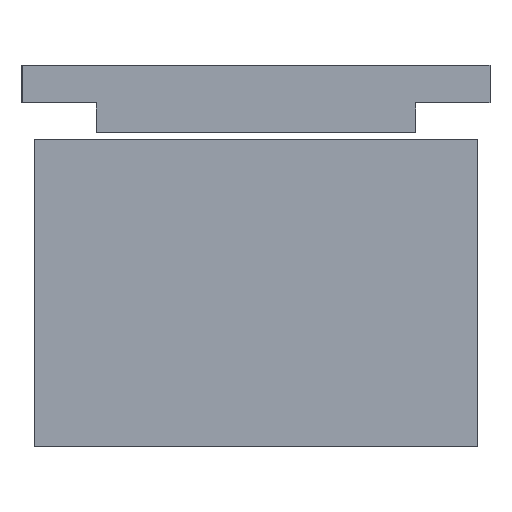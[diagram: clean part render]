
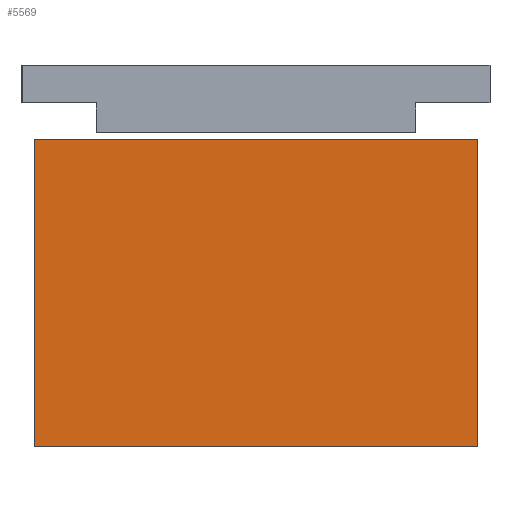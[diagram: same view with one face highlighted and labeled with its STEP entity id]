
A CAD part, left-side view. The second image highlights one B-rep face of the part: STEP entity #5569.
In plain terms, the highlighted planar face has unit normal (-1, 0, 0).
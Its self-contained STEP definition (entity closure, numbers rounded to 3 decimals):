
#202 = EDGE_CURVE ( 'NONE', #4719, #2775, #5398, .T. ) ;
#438 = VECTOR ( 'NONE', #5515, 1000. ) ;
#596 = LINE ( 'NONE', #1290, #3155 ) ;
#1290 = CARTESIAN_POINT ( 'NONE',  ( -182., -35.5, 49.3 ) ) ;
#1592 = DIRECTION ( 'NONE',  ( 0., 0., -1. ) ) ;
#1687 = LINE ( 'NONE', #2746, #4923 ) ;
#1929 = CARTESIAN_POINT ( 'NONE',  ( -182., -35.5, 0. ) ) ;
#2072 = CARTESIAN_POINT ( 'NONE',  ( -182., -35.5, 0. ) ) ;
#2194 = ORIENTED_EDGE ( 'NONE', *, *, #202, .T. ) ;
#2257 = ORIENTED_EDGE ( 'NONE', *, *, #7600, .F. ) ;
#2273 = PLANE ( 'NONE',  #3013 ) ;
#2590 = CARTESIAN_POINT ( 'NONE',  ( -182., -35.5, 49.3 ) ) ;
#2746 = CARTESIAN_POINT ( 'NONE',  ( -182., -35.5, 49.3 ) ) ;
#2775 = VERTEX_POINT ( 'NONE', #3721 ) ;
#2860 = DIRECTION ( 'NONE',  ( 0., 0., -1. ) ) ;
#2912 = LINE ( 'NONE', #1929, #438 ) ;
#3013 = AXIS2_PLACEMENT_3D ( 'NONE', #5981, #3426, #2860 ) ;
#3155 = VECTOR ( 'NONE', #7451, 1000. ) ;
#3426 = DIRECTION ( 'NONE',  ( 1., 0., 0. ) ) ;
#3721 = CARTESIAN_POINT ( 'NONE',  ( -182., 35.5, 0. ) ) ;
#4099 = FACE_OUTER_BOUND ( 'NONE', #7044, .T. ) ;
#4719 = VERTEX_POINT ( 'NONE', #7041 ) ;
#4740 = ORIENTED_EDGE ( 'NONE', *, *, #6092, .F. ) ;
#4923 = VECTOR ( 'NONE', #5783, 1000. ) ;
#5398 = LINE ( 'NONE', #6396, #7655 ) ;
#5515 = DIRECTION ( 'NONE',  ( 0., -1., 0. ) ) ;
#5569 = ADVANCED_FACE ( 'NONE', ( #4099 ), #2273, .F. ) ;
#5783 = DIRECTION ( 'NONE',  ( 0., 0., -1. ) ) ;
#5981 = CARTESIAN_POINT ( 'NONE',  ( -182., -35.5, 49.3 ) ) ;
#6030 = VERTEX_POINT ( 'NONE', #2072 ) ;
#6092 = EDGE_CURVE ( 'NONE', #6975, #6030, #1687, .T. ) ;
#6396 = CARTESIAN_POINT ( 'NONE',  ( -182., 35.5, 49.3 ) ) ;
#6476 = EDGE_CURVE ( 'NONE', #2775, #6030, #2912, .T. ) ;
#6975 = VERTEX_POINT ( 'NONE', #2590 ) ;
#7041 = CARTESIAN_POINT ( 'NONE',  ( -182., 35.5, 49.3 ) ) ;
#7044 = EDGE_LOOP ( 'NONE', ( #7871, #4740, #2257, #2194 ) ) ;
#7451 = DIRECTION ( 'NONE',  ( 0., -1., 0. ) ) ;
#7600 = EDGE_CURVE ( 'NONE', #4719, #6975, #596, .T. ) ;
#7655 = VECTOR ( 'NONE', #1592, 1000. ) ;
#7871 = ORIENTED_EDGE ( 'NONE', *, *, #6476, .T. ) ;
